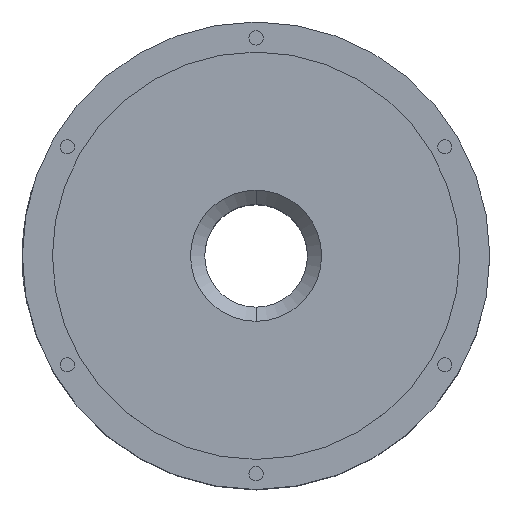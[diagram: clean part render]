
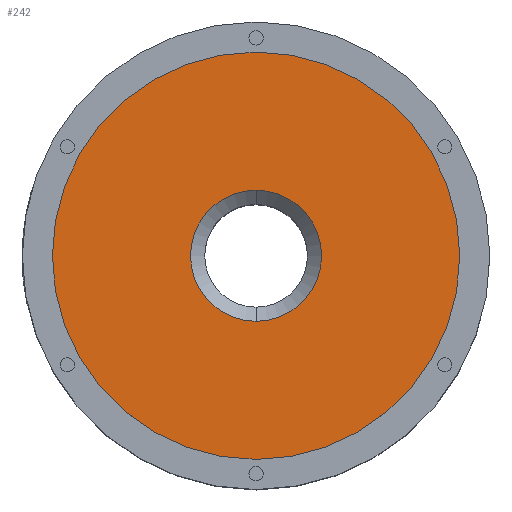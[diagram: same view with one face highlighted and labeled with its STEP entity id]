
A CAD part, top view. The second image highlights one B-rep face of the part: STEP entity #242.
In plain terms, the highlighted planar face has unit normal (0, 0, 1).
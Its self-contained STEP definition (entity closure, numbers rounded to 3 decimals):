
#215 = EDGE_LOOP ( 'NONE', ( #235, #238 ) ) ;
#218 = ORIENTED_EDGE ( 'NONE', *, *, #243, .T. ) ;
#220 = EDGE_LOOP ( 'NONE', ( #227, #218 ) ) ;
#227 = ORIENTED_EDGE ( 'NONE', *, *, #2657, .T. ) ;
#234 = EDGE_CURVE ( 'NONE', #333, #335, #4243, .T. ) ;
#235 = ORIENTED_EDGE ( 'NONE', *, *, #354, .F. ) ;
#238 = ORIENTED_EDGE ( 'NONE', *, *, #234, .F. ) ;
#242 = ADVANCED_FACE ( 'NONE', ( #4256, #4254 ), #4247, .T. ) ;
#243 = EDGE_CURVE ( 'NONE', #2598, #2579, #4240, .T. ) ;
#333 = VERTEX_POINT ( 'NONE', #4455 ) ;
#335 = VERTEX_POINT ( 'NONE', #4450 ) ;
#354 = EDGE_CURVE ( 'NONE', #335, #333, #4473, .T. ) ;
#2579 = VERTEX_POINT ( 'NONE', #5553 ) ;
#2598 = VERTEX_POINT ( 'NONE', #5630 ) ;
#2657 = EDGE_CURVE ( 'NONE', #2579, #2598, #5716, .T. ) ;
#4235 = DIRECTION ( 'NONE',  ( 0., 1., 0. ) ) ;
#4236 = DIRECTION ( 'NONE',  ( 0., 0., -1. ) ) ;
#4237 = CARTESIAN_POINT ( 'NONE',  ( 0., 0., 163. ) ) ;
#4238 = AXIS2_PLACEMENT_3D ( 'NONE', #4237, #4236, #4235 ) ;
#4240 = CIRCLE ( 'NONE', #4292, 37. ) ;
#4243 = CIRCLE ( 'NONE', #4238, 115. ) ;
#4244 = AXIS2_PLACEMENT_3D ( 'NONE', #4297, #4296, #4295 ) ;
#4247 = PLANE ( 'NONE',  #4244 ) ;
#4254 = FACE_OUTER_BOUND ( 'NONE', #215, .T. ) ;
#4256 = FACE_BOUND ( 'NONE', #220, .T. ) ;
#4289 = DIRECTION ( 'NONE',  ( 0., -1., 0. ) ) ;
#4290 = DIRECTION ( 'NONE',  ( 0., 0., -1. ) ) ;
#4291 = CARTESIAN_POINT ( 'NONE',  ( 0., 0., 163. ) ) ;
#4292 = AXIS2_PLACEMENT_3D ( 'NONE', #4291, #4290, #4289 ) ;
#4295 = DIRECTION ( 'NONE',  ( 0., -1., 0. ) ) ;
#4296 = DIRECTION ( 'NONE',  ( 0., 0., 1. ) ) ;
#4297 = CARTESIAN_POINT ( 'NONE',  ( 0., -29., 163. ) ) ;
#4450 = CARTESIAN_POINT ( 'NONE',  ( 0., 115., 163. ) ) ;
#4455 = CARTESIAN_POINT ( 'NONE',  ( 0., -115., 163. ) ) ;
#4464 = AXIS2_PLACEMENT_3D ( 'NONE', #4518, #4517, #4516 ) ;
#4473 = CIRCLE ( 'NONE', #4464, 115. ) ;
#4516 = DIRECTION ( 'NONE',  ( 0., 1., 0. ) ) ;
#4517 = DIRECTION ( 'NONE',  ( 0., 0., -1. ) ) ;
#4518 = CARTESIAN_POINT ( 'NONE',  ( 0., 0., 163. ) ) ;
#5553 = CARTESIAN_POINT ( 'NONE',  ( 0., -37., 163. ) ) ;
#5630 = CARTESIAN_POINT ( 'NONE',  ( 0., 37., 163. ) ) ;
#5711 = DIRECTION ( 'NONE',  ( 0., -1., 0. ) ) ;
#5712 = DIRECTION ( 'NONE',  ( 0., 0., -1. ) ) ;
#5713 = CARTESIAN_POINT ( 'NONE',  ( 0., 0., 163. ) ) ;
#5714 = AXIS2_PLACEMENT_3D ( 'NONE', #5713, #5712, #5711 ) ;
#5716 = CIRCLE ( 'NONE', #5714, 37. ) ;
